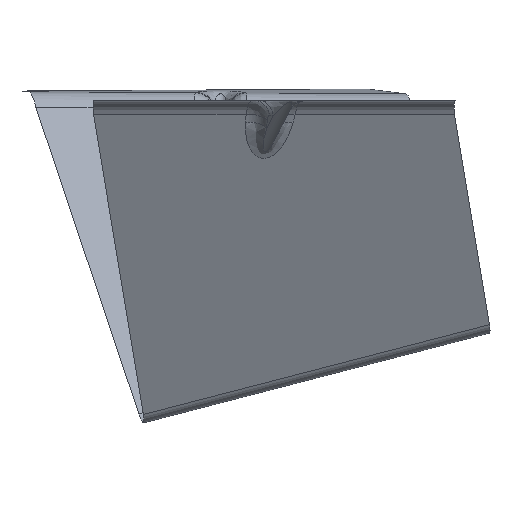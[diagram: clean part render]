
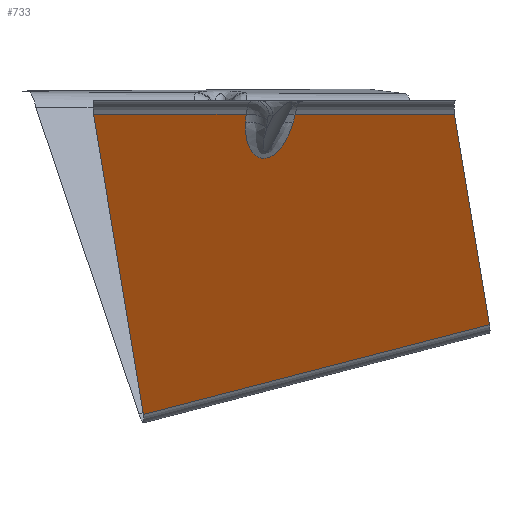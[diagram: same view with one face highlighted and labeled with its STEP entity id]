
A CAD part, left-side view. The second image highlights one B-rep face of the part: STEP entity #733.
In plain terms, the highlighted planar face has unit normal (-0.83, -0.249, -0.5).
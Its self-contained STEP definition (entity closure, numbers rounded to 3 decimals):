
#251=CARTESIAN_POINT('Vertex',(-93.488,7.878,-1.)) ;
#274=CARTESIAN_POINT('Line Origine',(-74.293,10.133,-33.967)) ;
#278=CARTESIAN_POINT('Vertex',(-92.241,8.025,-3.141)) ;
#618=CARTESIAN_POINT('Control Point',(-88.279,-5.181,-3.141)) ;
#619=CARTESIAN_POINT('Control Point',(-88.063,-5.072,-3.555)) ;
#620=CARTESIAN_POINT('Control Point',(-87.849,-4.953,-3.969)) ;
#621=CARTESIAN_POINT('Control Point',(-87.638,-4.823,-4.383)) ;
#622=CARTESIAN_POINT('Control Point',(-87.045,-4.42,-5.568)) ;
#623=CARTESIAN_POINT('Control Point',(-86.486,-3.924,-6.743)) ;
#624=CARTESIAN_POINT('Control Point',(-86.139,-3.559,-7.5)) ;
#625=CARTESIAN_POINT('Control Point',(-85.672,-2.971,-8.567)) ;
#626=CARTESIAN_POINT('Control Point',(-85.261,-2.259,-9.604)) ;
#627=CARTESIAN_POINT('Control Point',(-85.145,-2.036,-9.907)) ;
#628=CARTESIAN_POINT('Control Point',(-84.944,-1.603,-10.455)) ;
#629=CARTESIAN_POINT('Control Point',(-84.77,-1.119,-10.985)) ;
#630=CARTESIAN_POINT('Control Point',(-84.697,-0.886,-11.221)) ;
#631=CARTESIAN_POINT('Control Point',(-84.58,-0.444,-11.636)) ;
#632=CARTESIAN_POINT('Control Point',(-84.495,0.048,-12.023)) ;
#633=CARTESIAN_POINT('Control Point',(-84.464,0.277,-12.188)) ;
#634=CARTESIAN_POINT('Control Point',(-84.416,0.803,-12.529)) ;
#635=CARTESIAN_POINT('Control Point',(-84.421,1.39,-12.813)) ;
#636=CARTESIAN_POINT('Control Point',(-84.442,1.73,-12.947)) ;
#637=CARTESIAN_POINT('Control Point',(-84.514,2.283,-13.103)) ;
#638=CARTESIAN_POINT('Control Point',(-84.65,2.853,-13.161)) ;
#639=CARTESIAN_POINT('Control Point',(-84.706,3.056,-13.168)) ;
#640=CARTESIAN_POINT('Control Point',(-84.876,3.586,-13.15)) ;
#641=CARTESIAN_POINT('Control Point',(-85.091,4.082,-13.041)) ;
#642=CARTESIAN_POINT('Control Point',(-85.238,4.369,-12.941)) ;
#643=CARTESIAN_POINT('Control Point',(-85.662,5.101,-12.601)) ;
#644=CARTESIAN_POINT('Control Point',(-86.118,5.671,-12.128)) ;
#645=CARTESIAN_POINT('Control Point',(-86.411,5.982,-11.798)) ;
#646=CARTESIAN_POINT('Control Point',(-86.905,6.442,-11.206)) ;
#647=CARTESIAN_POINT('Control Point',(-87.393,6.803,-10.576)) ;
#648=CARTESIAN_POINT('Control Point',(-87.593,6.938,-10.312)) ;
#649=CARTESIAN_POINT('Control Point',(-88.041,7.214,-9.706)) ;
#650=CARTESIAN_POINT('Control Point',(-88.481,7.432,-9.084)) ;
#651=CARTESIAN_POINT('Control Point',(-88.725,7.539,-8.733)) ;
#652=CARTESIAN_POINT('Control Point',(-89.26,7.744,-7.947)) ;
#653=CARTESIAN_POINT('Control Point',(-89.784,7.887,-7.15)) ;
#654=CARTESIAN_POINT('Control Point',(-90.07,7.949,-6.706)) ;
#655=CARTESIAN_POINT('Control Point',(-90.687,8.051,-5.732)) ;
#656=CARTESIAN_POINT('Control Point',(-91.289,8.083,-4.75)) ;
#657=CARTESIAN_POINT('Control Point',(-91.611,8.081,-4.215)) ;
#658=CARTESIAN_POINT('Control Point',(-91.928,8.062,-3.678)) ;
#659=CARTESIAN_POINT('Control Point',(-92.241,8.025,-3.141)) ;
#660=CARTESIAN_POINT('Vertex',(-88.279,-5.181,-3.141)) ;
#678=CARTESIAN_POINT('Axis2P3D Location',(-41.563,-12.469,-77.018)) ;
#683=CARTESIAN_POINT('Line Origine',(-88.84,-5.463,-2.071)) ;
#687=CARTESIAN_POINT('Vertex',(-89.401,-5.745,-1.)) ;
#690=CARTESIAN_POINT('Line Origine',(-99.828,29.01,-1.)) ;
#694=CARTESIAN_POINT('Vertex',(-106.167,50.143,-1.)) ;
#697=CARTESIAN_POINT('Line Origine',(-79.046,43.247,-42.562)) ;
#701=CARTESIAN_POINT('Vertex',(-51.925,36.352,-84.125)) ;
#704=CARTESIAN_POINT('Line Origine',(-45.044,-11.584,-71.682)) ;
#708=CARTESIAN_POINT('Vertex',(-38.163,-59.519,-59.24)) ;
#711=CARTESIAN_POINT('Line Origine',(-57.165,-54.688,-30.12)) ;
#715=CARTESIAN_POINT('Vertex',(-76.167,-49.857,-1.)) ;
#718=CARTESIAN_POINT('Line Origine',(-82.784,-27.801,-1.)) ;
#275=DIRECTION('Vector Direction',(0.502,0.059,-0.863)) ;
#679=DIRECTION('Axis2P3D Direction',(0.83,0.249,0.5)) ;
#680=DIRECTION('Axis2P3D XDirection',(0.541,-0.138,-0.83)) ;
#684=DIRECTION('Vector Direction',(-0.452,-0.227,0.863)) ;
#691=DIRECTION('Vector Direction',(0.287,-0.958,0.)) ;
#698=DIRECTION('Vector Direction',(0.541,-0.138,-0.83)) ;
#705=DIRECTION('Vector Direction',(0.138,-0.959,0.249)) ;
#712=DIRECTION('Vector Direction',(-0.541,0.138,0.83)) ;
#719=DIRECTION('Vector Direction',(0.287,-0.958,0.)) ;
#681=AXIS2_PLACEMENT_3D('Plane Axis2P3D',#678,#679,#680) ;
#724=ORIENTED_EDGE('',*,*,#689,.T.) ;
#725=ORIENTED_EDGE('',*,*,#662,.T.) ;
#726=ORIENTED_EDGE('',*,*,#280,.T.) ;
#727=ORIENTED_EDGE('',*,*,#696,.F.) ;
#728=ORIENTED_EDGE('',*,*,#703,.T.) ;
#729=ORIENTED_EDGE('',*,*,#710,.T.) ;
#730=ORIENTED_EDGE('',*,*,#717,.T.) ;
#731=ORIENTED_EDGE('',*,*,#722,.F.) ;
#276=VECTOR('Line Direction',#275,1.) ;
#685=VECTOR('Line Direction',#684,1.) ;
#692=VECTOR('Line Direction',#691,1.) ;
#699=VECTOR('Line Direction',#698,1.) ;
#706=VECTOR('Line Direction',#705,1.) ;
#713=VECTOR('Line Direction',#712,1.) ;
#720=VECTOR('Line Direction',#719,1.) ;
#733=ADVANCED_FACE('Extract.1',(#732),#682,.F.) ;
#617=B_SPLINE_CURVE_WITH_KNOTS('',5,(#618,#619,#620,#621,#622,#623,#624,#625,#626,#627,#628,#629,#630,#631,#632,#633,#634,#635,#636,#637,#638,#639,#640,#641,#642,#643,#644,#645,#646,#647,#648,#649,#650,#651,#652,#653,#654,#655,#656,#657,#658,#659),.UNSPECIFIED.,.F.,.U.,(6,3,3,3,3,3,3,3,3,3,3,3,3,6),(24.604,27.799,33.773,36.281,38.375,40.049,42.019,43.112,44.902,48.105,50.355,53.186,56.661,60.801),.UNSPECIFIED.) ;
#280=EDGE_CURVE('',#279,#252,#277,.F.) ;
#662=EDGE_CURVE('',#661,#279,#617,.T.) ;
#689=EDGE_CURVE('',#688,#661,#686,.F.) ;
#696=EDGE_CURVE('',#695,#252,#693,.T.) ;
#703=EDGE_CURVE('',#695,#702,#700,.T.) ;
#710=EDGE_CURVE('',#702,#709,#707,.T.) ;
#717=EDGE_CURVE('',#709,#716,#714,.T.) ;
#722=EDGE_CURVE('',#688,#716,#721,.T.) ;
#723=EDGE_LOOP('',(#724,#725,#726,#727,#728,#729,#730,#731)) ;
#732=FACE_OUTER_BOUND('',#723,.T.) ;
#277=LINE('Line',#274,#276) ;
#686=LINE('Line',#683,#685) ;
#693=LINE('Line',#690,#692) ;
#700=LINE('Line',#697,#699) ;
#707=LINE('Line',#704,#706) ;
#714=LINE('Line',#711,#713) ;
#721=LINE('Line',#718,#720) ;
#682=PLANE('',#681) ;
#252=VERTEX_POINT('',#251) ;
#279=VERTEX_POINT('',#278) ;
#661=VERTEX_POINT('',#660) ;
#688=VERTEX_POINT('',#687) ;
#695=VERTEX_POINT('',#694) ;
#702=VERTEX_POINT('',#701) ;
#709=VERTEX_POINT('',#708) ;
#716=VERTEX_POINT('',#715) ;
